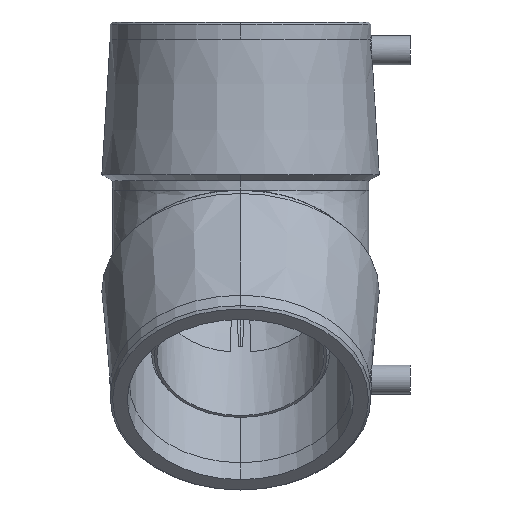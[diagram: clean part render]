
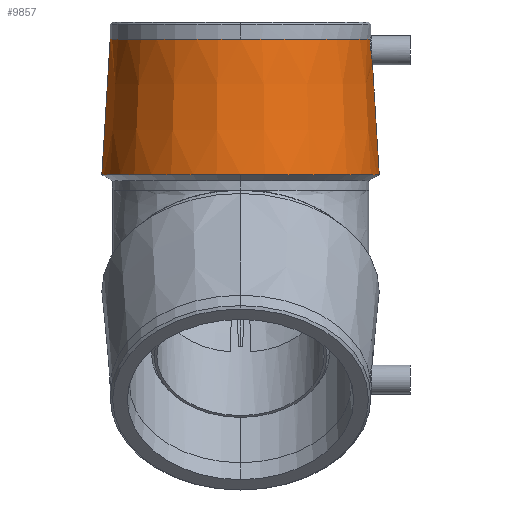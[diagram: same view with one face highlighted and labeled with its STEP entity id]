
A CAD part, left-side view. The second image highlights one B-rep face of the part: STEP entity #9857.
In plain terms, the highlighted conical face has half-angle 3.5 degrees and reference radius 56.745 mm.
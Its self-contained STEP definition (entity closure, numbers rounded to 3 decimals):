
#598 = LINE ( 'NONE', #611, #2846 ) ;
#611 = CARTESIAN_POINT ( 'NONE',  ( 5.194, -45.081, 17.335 ) ) ;
#612 = DIRECTION ( 'NONE',  ( 0., -0.061, -0.998 ) ) ;
#613 = LINE ( 'NONE', #614, #2871 ) ;
#614 = CARTESIAN_POINT ( 'NONE',  ( 5.194, 68.408, 17.335 ) ) ;
#621 = DIRECTION ( 'NONE',  ( 0., 0.061, -0.998 ) ) ;
#647 = CARTESIAN_POINT ( 'NONE',  ( 5.194, 11.663, 72.835 ) ) ;
#648 = DIRECTION ( 'NONE',  ( 0., 0., -1. ) ) ;
#649 = DIRECTION ( 'NONE',  ( 1., 0., 0. ) ) ;
#730 = B_SPLINE_CURVE_WITH_KNOTS ( 'NONE', 3,
 ( #7749, #7750, #7767, #7768, #7769, #7770, #7771, #7772, #7773, #7774, #7775, #7776, #7777, #7778, #7779, #7780, #7781, #7782 ),
 .UNSPECIFIED., .F., .F.,
 ( 4, 2, 2, 2, 2, 2, 2, 2, 4 ),
 ( 0.008, 0.009, 0.01, 0.011, 0.012, 0.013, 0.014, 0.015, 0.016 ),
 .UNSPECIFIED. ) ;
#771 = CIRCLE ( 'NONE', #776, 56.745 ) ;
#776 = AXIS2_PLACEMENT_3D ( 'NONE', #9509, #9510, #9511 ) ;
#837 = EDGE_CURVE ( 'NONE', #8795, #8791, #771, .T. ) ;
#845 = EDGE_CURVE ( 'NONE', #8789, #8775, #5320, .T. ) ;
#1645 = CONICAL_SURFACE ( 'NONE', #1646, 56.745, 0.061 ) ;
#1646 = AXIS2_PLACEMENT_3D ( 'NONE', #6360, #6358, #6354 ) ;
#2846 = VECTOR ( 'NONE', #612, 1000. ) ;
#2871 = VECTOR ( 'NONE', #621, 1000. ) ;
#2878 = CIRCLE ( 'NONE', #2879, 53.35 ) ;
#2879 = AXIS2_PLACEMENT_3D ( 'NONE', #647, #648, #649 ) ;
#5320 = B_SPLINE_CURVE_WITH_KNOTS ( 'NONE', 3,
 ( #9540, #9530, #9541, #9542, #9543, #9544, #9545, #9546, #9547, #9548, #9549, #9550, #9551, #9552, #9553, #9554 ),
 .UNSPECIFIED., .F., .F.,
 ( 4, 2, 2, 2, 2, 2, 2, 4 ),
 ( -0.002, -0.001, 0., 0.002, 0.003, 0.003, 0.004, 0.005 ),
 .UNSPECIFIED. ) ;
#5784 = CARTESIAN_POINT ( 'NONE',  ( -48.156, 11.663, 72.835 ) ) ;
#5786 = CARTESIAN_POINT ( 'NONE',  ( 0.895, -41.513, 72.835 ) ) ;
#5793 = CARTESIAN_POINT ( 'NONE',  ( 5.194, -42.329, 62.335 ) ) ;
#5796 = CARTESIAN_POINT ( 'NONE',  ( -0.621, -41.737, 66.856 ) ) ;
#5798 = CARTESIAN_POINT ( 'NONE',  ( -51.55, 11.663, 17.335 ) ) ;
#5799 = CARTESIAN_POINT ( 'NONE',  ( 5.194, -45.081, 17.335 ) ) ;
#5802 = CARTESIAN_POINT ( 'NONE',  ( 5.194, 68.408, 17.335 ) ) ;
#5806 = CARTESIAN_POINT ( 'NONE',  ( 5.194, 65.013, 72.835 ) ) ;
#6354 = DIRECTION ( 'NONE',  ( 0., 1., 0. ) ) ;
#6357 = FACE_OUTER_BOUND ( 'NONE', #7226, .T. ) ;
#6358 = DIRECTION ( 'NONE',  ( 0., 0., -1. ) ) ;
#6360 = CARTESIAN_POINT ( 'NONE',  ( 5.194, 11.663, 17.335 ) ) ;
#6529 = EDGE_CURVE ( 'NONE', #8785, #8789, #730, .T. ) ;
#6531 = EDGE_CURVE ( 'NONE', #8775, #8782, #10407, .T. ) ;
#6532 = EDGE_CURVE ( 'NONE', #8791, #8792, #10409, .T. ) ;
#7226 = EDGE_LOOP ( 'NONE', ( #7406, #7407, #7408, #7409, #7410, #7411, #7412, #7413 ) ) ;
#7406 = ORIENTED_EDGE ( 'NONE', *, *, #10022, .F. ) ;
#7407 = ORIENTED_EDGE ( 'NONE', *, *, #6529, .T. ) ;
#7408 = ORIENTED_EDGE ( 'NONE', *, *, #845, .T. ) ;
#7409 = ORIENTED_EDGE ( 'NONE', *, *, #6531, .T. ) ;
#7410 = ORIENTED_EDGE ( 'NONE', *, *, #10029, .T. ) ;
#7411 = ORIENTED_EDGE ( 'NONE', *, *, #10025, .T. ) ;
#7412 = ORIENTED_EDGE ( 'NONE', *, *, #837, .T. ) ;
#7413 = ORIENTED_EDGE ( 'NONE', *, *, #6532, .T. ) ;
#7749 = CARTESIAN_POINT ( 'NONE',  ( 5.194, -42.329, 62.335 ) ) ;
#7750 = CARTESIAN_POINT ( 'NONE',  ( 4.862, -42.329, 62.335 ) ) ;
#7767 = CARTESIAN_POINT ( 'NONE',  ( 4.528, -42.324, 62.363 ) ) ;
#7768 = CARTESIAN_POINT ( 'NONE',  ( 3.878, -42.305, 62.472 ) ) ;
#7769 = CARTESIAN_POINT ( 'NONE',  ( 3.558, -42.292, 62.553 ) ) ;
#7770 = CARTESIAN_POINT ( 'NONE',  ( 2.93, -42.256, 62.769 ) ) ;
#7771 = CARTESIAN_POINT ( 'NONE',  ( 2.624, -42.234, 62.904 ) ) ;
#7772 = CARTESIAN_POINT ( 'NONE',  ( 2.046, -42.184, 63.217 ) ) ;
#7773 = CARTESIAN_POINT ( 'NONE',  ( 1.77, -42.156, 63.397 ) ) ;
#7774 = CARTESIAN_POINT ( 'NONE',  ( 1.247, -42.095, 63.804 ) ) ;
#7775 = CARTESIAN_POINT ( 'NONE',  ( 1.002, -42.062, 64.03 ) ) ;
#7776 = CARTESIAN_POINT ( 'NONE',  ( 0.558, -41.996, 64.513 ) ) ;
#7777 = CARTESIAN_POINT ( 'NONE',  ( 0.356, -41.962, 64.772 ) ) ;
#7778 = CARTESIAN_POINT ( 'NONE',  ( -0.006, -41.894, 65.325 ) ) ;
#7779 = CARTESIAN_POINT ( 'NONE',  ( -0.165, -41.861, 65.618 ) ) ;
#7780 = CARTESIAN_POINT ( 'NONE',  ( -0.431, -41.796, 66.222 ) ) ;
#7781 = CARTESIAN_POINT ( 'NONE',  ( -0.538, -41.766, 66.534 ) ) ;
#7782 = CARTESIAN_POINT ( 'NONE',  ( -0.621, -41.737, 66.856 ) ) ;
#7786 = CARTESIAN_POINT ( 'NONE',  ( 5.194, 11.663, 72.835 ) ) ;
#7787 = DIRECTION ( 'NONE',  ( 0., 0., -1. ) ) ;
#7788 = DIRECTION ( 'NONE',  ( 1., 0., 0. ) ) ;
#7789 = CARTESIAN_POINT ( 'NONE',  ( 5.194, 11.663, 17.335 ) ) ;
#7790 = DIRECTION ( 'NONE',  ( 0., 0., 1. ) ) ;
#7791 = DIRECTION ( 'NONE',  ( 1., 0., 0. ) ) ;
#8775 = VERTEX_POINT ( 'NONE', #5786 ) ;
#8782 = VERTEX_POINT ( 'NONE', #5784 ) ;
#8785 = VERTEX_POINT ( 'NONE', #5793 ) ;
#8789 = VERTEX_POINT ( 'NONE', #5796 ) ;
#8791 = VERTEX_POINT ( 'NONE', #5798 ) ;
#8792 = VERTEX_POINT ( 'NONE', #5799 ) ;
#8795 = VERTEX_POINT ( 'NONE', #5802 ) ;
#8799 = VERTEX_POINT ( 'NONE', #5806 ) ;
#9509 = CARTESIAN_POINT ( 'NONE',  ( 5.194, 11.663, 17.335 ) ) ;
#9510 = DIRECTION ( 'NONE',  ( 0., 0., 1. ) ) ;
#9511 = DIRECTION ( 'NONE',  ( 1., 0., 0. ) ) ;
#9530 = CARTESIAN_POINT ( 'NONE',  ( -0.713, -41.711, 67.114 ) ) ;
#9540 = CARTESIAN_POINT ( 'NONE',  ( -0.621, -41.737, 66.856 ) ) ;
#9541 = CARTESIAN_POINT ( 'NONE',  ( -0.785, -41.687, 67.376 ) ) ;
#9542 = CARTESIAN_POINT ( 'NONE',  ( -0.892, -41.642, 67.908 ) ) ;
#9543 = CARTESIAN_POINT ( 'NONE',  ( -0.925, -41.621, 68.18 ) ) ;
#9544 = CARTESIAN_POINT ( 'NONE',  ( -0.964, -41.566, 69. ) ) ;
#9545 = CARTESIAN_POINT ( 'NONE',  ( -0.91, -41.54, 69.538 ) ) ;
#9546 = CARTESIAN_POINT ( 'NONE',  ( -0.705, -41.513, 70.335 ) ) ;
#9547 = CARTESIAN_POINT ( 'NONE',  ( -0.617, -41.507, 70.594 ) ) ;
#9548 = CARTESIAN_POINT ( 'NONE',  ( -0.406, -41.499, 71.094 ) ) ;
#9549 = CARTESIAN_POINT ( 'NONE',  ( -0.283, -41.497, 71.336 ) ) ;
#9550 = CARTESIAN_POINT ( 'NONE',  ( 0., -41.497, 71.803 ) ) ;
#9551 = CARTESIAN_POINT ( 'NONE',  ( 0.159, -41.498, 72.028 ) ) ;
#9552 = CARTESIAN_POINT ( 'NONE',  ( 0.506, -41.504, 72.45 ) ) ;
#9553 = CARTESIAN_POINT ( 'NONE',  ( 0.693, -41.508, 72.649 ) ) ;
#9554 = CARTESIAN_POINT ( 'NONE',  ( 0.895, -41.513, 72.835 ) ) ;
#9857 = ADVANCED_FACE ( 'NONE', ( #6357 ), #1645, .T. ) ;
#10022 = EDGE_CURVE ( 'NONE', #8785, #8792, #598, .T. ) ;
#10025 = EDGE_CURVE ( 'NONE', #8799, #8795, #613, .T. ) ;
#10029 = EDGE_CURVE ( 'NONE', #8782, #8799, #2878, .T. ) ;
#10407 = CIRCLE ( 'NONE', #10410, 53.35 ) ;
#10409 = CIRCLE ( 'NONE', #10412, 56.745 ) ;
#10410 = AXIS2_PLACEMENT_3D ( 'NONE', #7786, #7787, #7788 ) ;
#10412 = AXIS2_PLACEMENT_3D ( 'NONE', #7789, #7790, #7791 ) ;
